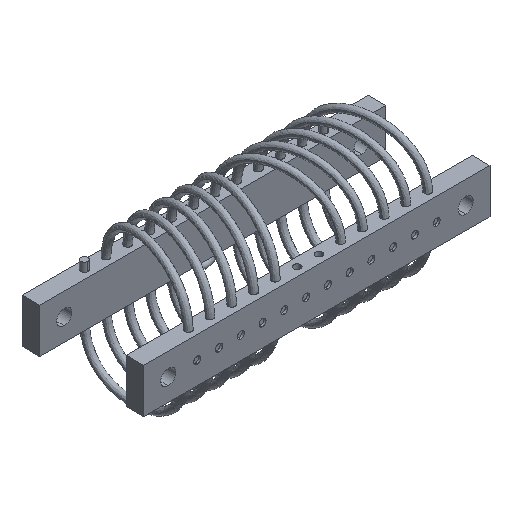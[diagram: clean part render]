
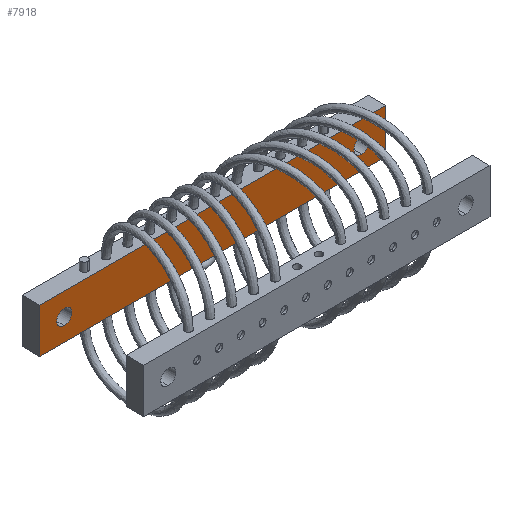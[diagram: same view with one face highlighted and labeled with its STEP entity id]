
A CAD part, isometric view. The second image highlights one B-rep face of the part: STEP entity #7918.
In plain terms, the highlighted planar face has unit normal (0, -1, 0).
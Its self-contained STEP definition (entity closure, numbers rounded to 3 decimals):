
#32 = AXIS2_PLACEMENT_3D ( 'NONE', #12992, #4191, #14447 ) ;
#287 = VECTOR ( 'NONE', #1762, 1000. ) ;
#289 = DIRECTION ( 'NONE',  ( 0., 0., 1. ) ) ;
#326 = VERTEX_POINT ( 'NONE', #9522 ) ;
#1309 = CIRCLE ( 'NONE', #13546, 1.75 ) ;
#1433 = VERTEX_POINT ( 'NONE', #1499 ) ;
#1499 = CARTESIAN_POINT ( 'NONE',  ( 34.15, 9.9, -1.75 ) ) ;
#1762 = DIRECTION ( 'NONE',  ( 0., 0., 1. ) ) ;
#1852 = DIRECTION ( 'NONE',  ( 1., 0., 0. ) ) ;
#2102 = PLANE ( 'NONE',  #11430 ) ;
#2555 = AXIS2_PLACEMENT_3D ( 'NONE', #17878, #9126, #289 ) ;
#2711 = CARTESIAN_POINT ( 'NONE',  ( -34.15, 9.9, -1.75 ) ) ;
#2864 = EDGE_CURVE ( 'NONE', #4259, #1433, #7001, .T. ) ;
#3265 = EDGE_CURVE ( 'NONE', #11948, #13382, #12040, .T. ) ;
#3281 = DIRECTION ( 'NONE',  ( -1., 0., 0. ) ) ;
#3587 = DIRECTION ( 'NONE',  ( 0., -1., 0. ) ) ;
#3671 = ORIENTED_EDGE ( 'NONE', *, *, #18878, .T. ) ;
#4092 = LINE ( 'NONE', #13573, #15790 ) ;
#4191 = DIRECTION ( 'NONE',  ( 0., 1., 0. ) ) ;
#4259 = VERTEX_POINT ( 'NONE', #9062 ) ;
#4835 = CARTESIAN_POINT ( 'NONE',  ( -34.15, 9.9, 1.75 ) ) ;
#5216 = CARTESIAN_POINT ( 'NONE',  ( 39.75, 9.9, -5.1 ) ) ;
#6079 = EDGE_CURVE ( 'NONE', #13205, #10878, #1309, .T. ) ;
#6307 = FACE_OUTER_BOUND ( 'NONE', #9276, .T. ) ;
#6487 = CARTESIAN_POINT ( 'NONE',  ( 0., 9.9, 0. ) ) ;
#7001 = CIRCLE ( 'NONE', #9581, 1.75 ) ;
#7089 = ORIENTED_EDGE ( 'NONE', *, *, #9831, .F. ) ;
#7709 = EDGE_CURVE ( 'NONE', #10878, #13205, #8162, .T. ) ;
#7907 = ORIENTED_EDGE ( 'NONE', *, *, #2864, .T. ) ;
#7918 = ADVANCED_FACE ( 'NONE', ( #17543, #9769, #6307 ), #2102, .T. ) ;
#7975 = ORIENTED_EDGE ( 'NONE', *, *, #3265, .F. ) ;
#8162 = CIRCLE ( 'NONE', #2555, 1.75 ) ;
#8295 = DIRECTION ( 'NONE',  ( 0., 1., 0. ) ) ;
#8504 = CARTESIAN_POINT ( 'NONE',  ( -34.15, 9.9, 0. ) ) ;
#9062 = CARTESIAN_POINT ( 'NONE',  ( 34.15, 9.9, 1.75 ) ) ;
#9081 = CARTESIAN_POINT ( 'NONE',  ( -39.75, 9.9, -5.1 ) ) ;
#9126 = DIRECTION ( 'NONE',  ( 0., 1., 0. ) ) ;
#9276 = EDGE_LOOP ( 'NONE', ( #7975, #15580, #7089, #18454 ) ) ;
#9522 = CARTESIAN_POINT ( 'NONE',  ( 39.75, 9.9, 5.1 ) ) ;
#9581 = AXIS2_PLACEMENT_3D ( 'NONE', #17049, #8295, #18508 ) ;
#9769 = FACE_BOUND ( 'NONE', #18913, .T. ) ;
#9831 = EDGE_CURVE ( 'NONE', #326, #18237, #16736, .T. ) ;
#9967 = DIRECTION ( 'NONE',  ( 0., 0., 1. ) ) ;
#10657 = CARTESIAN_POINT ( 'NONE',  ( 39.75, 9.9, 5.1 ) ) ;
#10878 = VERTEX_POINT ( 'NONE', #2711 ) ;
#11430 = AXIS2_PLACEMENT_3D ( 'NONE', #6487, #3587, #13863 ) ;
#11948 = VERTEX_POINT ( 'NONE', #9081 ) ;
#12012 = EDGE_CURVE ( 'NONE', #13382, #326, #12806, .T. ) ;
#12040 = LINE ( 'NONE', #13471, #287 ) ;
#12385 = VECTOR ( 'NONE', #18401, 1000. ) ;
#12806 = LINE ( 'NONE', #10657, #15303 ) ;
#12992 = CARTESIAN_POINT ( 'NONE',  ( 34.15, 9.9, 0. ) ) ;
#13205 = VERTEX_POINT ( 'NONE', #4835 ) ;
#13382 = VERTEX_POINT ( 'NONE', #17621 ) ;
#13471 = CARTESIAN_POINT ( 'NONE',  ( -39.75, 9.9, -5.1 ) ) ;
#13546 = AXIS2_PLACEMENT_3D ( 'NONE', #8504, #18719, #9967 ) ;
#13573 = CARTESIAN_POINT ( 'NONE',  ( 39.75, 9.9, -5.1 ) ) ;
#13863 = DIRECTION ( 'NONE',  ( 0., 0., -1. ) ) ;
#14447 = DIRECTION ( 'NONE',  ( 0., 0., 1. ) ) ;
#14577 = ORIENTED_EDGE ( 'NONE', *, *, #6079, .T. ) ;
#15070 = CARTESIAN_POINT ( 'NONE',  ( 39.75, 9.9, -5.1 ) ) ;
#15270 = EDGE_CURVE ( 'NONE', #18237, #11948, #4092, .T. ) ;
#15277 = CIRCLE ( 'NONE', #32, 1.75 ) ;
#15303 = VECTOR ( 'NONE', #1852, 1000. ) ;
#15580 = ORIENTED_EDGE ( 'NONE', *, *, #15270, .F. ) ;
#15790 = VECTOR ( 'NONE', #3281, 1000. ) ;
#16022 = EDGE_LOOP ( 'NONE', ( #7907, #3671 ) ) ;
#16736 = LINE ( 'NONE', #5216, #12385 ) ;
#17049 = CARTESIAN_POINT ( 'NONE',  ( 34.15, 9.9, 0. ) ) ;
#17359 = ORIENTED_EDGE ( 'NONE', *, *, #7709, .T. ) ;
#17543 = FACE_BOUND ( 'NONE', #16022, .T. ) ;
#17621 = CARTESIAN_POINT ( 'NONE',  ( -39.75, 9.9, 5.1 ) ) ;
#17878 = CARTESIAN_POINT ( 'NONE',  ( -34.15, 9.9, 0. ) ) ;
#18237 = VERTEX_POINT ( 'NONE', #15070 ) ;
#18401 = DIRECTION ( 'NONE',  ( 0., 0., -1. ) ) ;
#18454 = ORIENTED_EDGE ( 'NONE', *, *, #12012, .F. ) ;
#18508 = DIRECTION ( 'NONE',  ( 0., 0., 1. ) ) ;
#18719 = DIRECTION ( 'NONE',  ( 0., 1., 0. ) ) ;
#18878 = EDGE_CURVE ( 'NONE', #1433, #4259, #15277, .T. ) ;
#18913 = EDGE_LOOP ( 'NONE', ( #14577, #17359 ) ) ;
